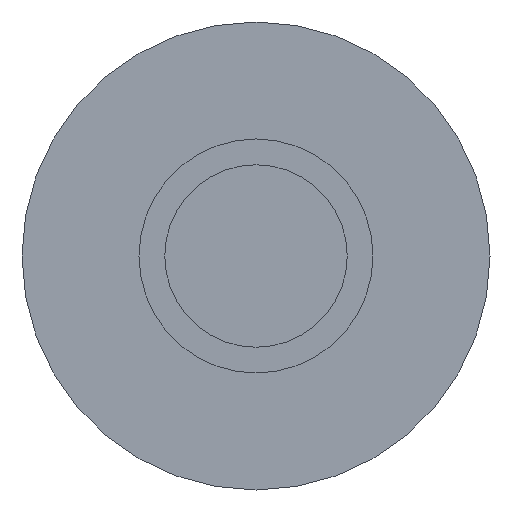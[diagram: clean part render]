
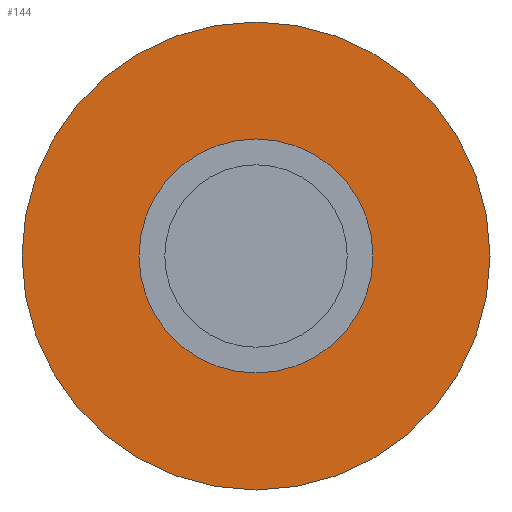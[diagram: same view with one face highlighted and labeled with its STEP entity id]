
A CAD part, front view. The second image highlights one B-rep face of the part: STEP entity #144.
In plain terms, the highlighted planar face has unit normal (0, -1, 0).
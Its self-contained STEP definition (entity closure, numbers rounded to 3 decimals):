
#31 = CYLINDRICAL_SURFACE('',#32,5.);
#32 = AXIS2_PLACEMENT_3D('',#33,#34,#35);
#33 = CARTESIAN_POINT('',(43.447,107.2,-230.992));
#34 = DIRECTION('',(0.,-1.,-0.));
#35 = DIRECTION('',(1.,0.,0.));
#56 = VERTEX_POINT('',#57);
#57 = CARTESIAN_POINT('',(48.447,117.2,-230.992));
#78 = EDGE_CURVE('',#56,#56,#79,.T.);
#79 = SURFACE_CURVE('',#80,(#85,#92),.PCURVE_S1.);
#80 = CIRCLE('',#81,5.);
#81 = AXIS2_PLACEMENT_3D('',#82,#83,#84);
#82 = CARTESIAN_POINT('',(43.447,117.2,-230.992));
#83 = DIRECTION('',(0.,-1.,-0.));
#84 = DIRECTION('',(1.,0.,0.));
#85 = PCURVE('',#31,#86);
#86 = DEFINITIONAL_REPRESENTATION('',(#87),#91);
#87 = LINE('',#88,#89);
#88 = CARTESIAN_POINT('',(-6.283,-10.));
#89 = VECTOR('',#90,1.);
#90 = DIRECTION('',(1.,-0.));
#91 = ( GEOMETRIC_REPRESENTATION_CONTEXT(2) 
PARAMETRIC_REPRESENTATION_CONTEXT() REPRESENTATION_CONTEXT('2D SPACE',''
  ) );
#92 = PCURVE('',#93,#98);
#93 = PLANE('',#94);
#94 = AXIS2_PLACEMENT_3D('',#95,#96,#97);
#95 = CARTESIAN_POINT('',(43.447,117.2,-230.992));
#96 = DIRECTION('',(0.,1.,0.));
#97 = DIRECTION('',(0.,-0.,1.));
#98 = DEFINITIONAL_REPRESENTATION('',(#99),#107);
#99 = ( BOUNDED_CURVE() B_SPLINE_CURVE(2,(#100,#101,#102,#103,#104,#105,
#106),.UNSPECIFIED.,.T.,.F.) B_SPLINE_CURVE_WITH_KNOTS((1,2,2,2,2,1),(
    -2.094,0.,2.094,4.189,6.283,
8.378),.UNSPECIFIED.) CURVE() GEOMETRIC_REPRESENTATION_ITEM() 
RATIONAL_B_SPLINE_CURVE((1.,0.5,1.,0.5,1.,0.5,1.)) REPRESENTATION_ITEM(
  '') );
#100 = CARTESIAN_POINT('',(0.,5.));
#101 = CARTESIAN_POINT('',(8.66,5.));
#102 = CARTESIAN_POINT('',(4.33,-2.5));
#103 = CARTESIAN_POINT('',(0.,-10.));
#104 = CARTESIAN_POINT('',(-4.33,-2.5));
#105 = CARTESIAN_POINT('',(-8.66,5.));
#106 = CARTESIAN_POINT('',(0.,5.));
#107 = ( GEOMETRIC_REPRESENTATION_CONTEXT(2) 
PARAMETRIC_REPRESENTATION_CONTEXT() REPRESENTATION_CONTEXT('2D SPACE',''
  ) );
#144 = ADVANCED_FACE('',(#145,#176),#93,.F.);
#145 = FACE_BOUND('',#146,.F.);
#146 = EDGE_LOOP('',(#147));
#147 = ORIENTED_EDGE('',*,*,#148,.T.);
#148 = EDGE_CURVE('',#149,#149,#151,.T.);
#149 = VERTEX_POINT('',#150);
#150 = CARTESIAN_POINT('',(53.447,117.2,-230.992));
#151 = SURFACE_CURVE('',#152,(#157,#164),.PCURVE_S1.);
#152 = CIRCLE('',#153,10.);
#153 = AXIS2_PLACEMENT_3D('',#154,#155,#156);
#154 = CARTESIAN_POINT('',(43.447,117.2,-230.992));
#155 = DIRECTION('',(-0.,1.,0.));
#156 = DIRECTION('',(1.,0.,0.));
#157 = PCURVE('',#93,#158);
#158 = DEFINITIONAL_REPRESENTATION('',(#159),#163);
#159 = CIRCLE('',#160,10.);
#160 = AXIS2_PLACEMENT_2D('',#161,#162);
#161 = CARTESIAN_POINT('',(0.,0.));
#162 = DIRECTION('',(0.,1.));
#163 = ( GEOMETRIC_REPRESENTATION_CONTEXT(2) 
PARAMETRIC_REPRESENTATION_CONTEXT() REPRESENTATION_CONTEXT('2D SPACE',''
  ) );
#164 = PCURVE('',#165,#170);
#165 = CYLINDRICAL_SURFACE('',#166,10.);
#166 = AXIS2_PLACEMENT_3D('',#167,#168,#169);
#167 = CARTESIAN_POINT('',(43.447,117.2,-230.992));
#168 = DIRECTION('',(0.,-1.,-0.));
#169 = DIRECTION('',(1.,0.,0.));
#170 = DEFINITIONAL_REPRESENTATION('',(#171),#175);
#171 = LINE('',#172,#173);
#172 = CARTESIAN_POINT('',(-0.,0.));
#173 = VECTOR('',#174,1.);
#174 = DIRECTION('',(-1.,0.));
#175 = ( GEOMETRIC_REPRESENTATION_CONTEXT(2) 
PARAMETRIC_REPRESENTATION_CONTEXT() REPRESENTATION_CONTEXT('2D SPACE',''
  ) );
#176 = FACE_BOUND('',#177,.F.);
#177 = EDGE_LOOP('',(#178));
#178 = ORIENTED_EDGE('',*,*,#78,.T.);
